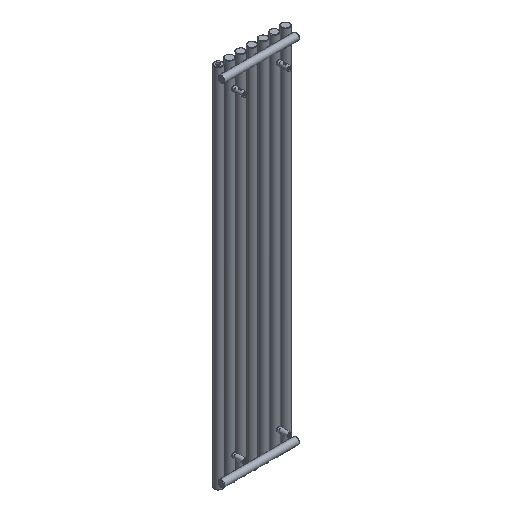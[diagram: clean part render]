
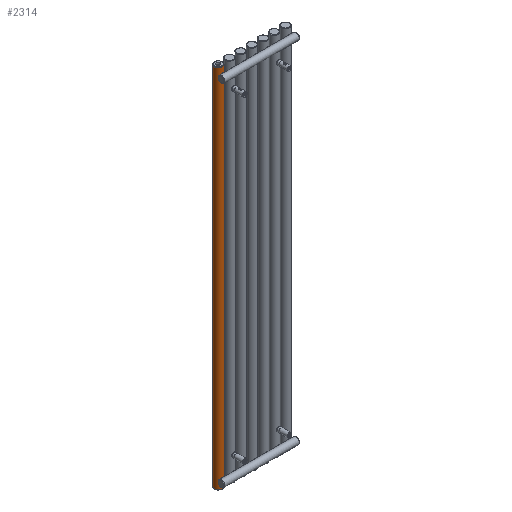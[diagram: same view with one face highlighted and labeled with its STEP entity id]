
A CAD part, isometric view. The second image highlights one B-rep face of the part: STEP entity #2314.
In plain terms, the highlighted cylindrical face has radius 20 mm (diameter 40 mm), a full revolution.
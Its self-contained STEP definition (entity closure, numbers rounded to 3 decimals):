
#174=FACE_BOUND('',#562,.T.);
#175=FACE_BOUND('',#563,.T.);
#215=LINE('',#3919,#292);
#292=VECTOR('',#2862,20.);
#369=CYLINDRICAL_SURFACE('',#2514,20.);
#404=FACE_OUTER_BOUND('',#561,.T.);
#561=EDGE_LOOP('',(#1607,#1608,#1609,#1610,#1611));
#562=EDGE_LOOP('',(#1612));
#563=EDGE_LOOP('',(#1613));
#750=B_SPLINE_CURVE_WITH_KNOTS('',3,(#3761,#3762,#3763,#3764,#3765,#3766,
#3767,#3768,#3769,#3770,#3771,#3772,#3773,#3774,#3775,#3776,#3777,#3778,
#3779,#3780),.UNSPECIFIED.,.T.,.F.,(4,1,1,1,1,1,1,1,1,1,1,1,1,1,1,1,1,4),
(-5.132,-4.765,-4.399,-3.91,
-3.788,-3.666,-3.421,-3.177,
-2.933,-2.444,-2.199,-1.955,
-1.711,-1.466,-1.1,-0.733,
-0.367,0.),.UNSPECIFIED.);
#757=B_SPLINE_CURVE_WITH_KNOTS('',3,(#3923,#3924,#3925,#3926,#3927,#3928,
#3929,#3930,#3931,#3932,#3933,#3934,#3935,#3936,#3937,#3938,#3939,#3940,
#3941,#3942,#3943,#3944,#3945,#3946,#3947,#3948,#3949,#3950,#3951,#3952,
#3953,#3954,#3955,#3956,#3957,#3958,#3959,#3960,#3961,#3962,#3963,#3964,
#3965,#3966,#3967,#3968,#3969,#3970,#3971,#3972,#3973,#3974,#3975,#3976,
#3977,#3978,#3979,#3980,#3981,#3982,#3983,#3984,#3985,#3986,#3987,#3988,
#3989,#3990,#3991,#3992),.UNSPECIFIED.,.T.,.F.,(4,3,3,3,3,3,3,3,3,3,3,3,
3,3,3,3,3,3,3,3,3,3,3,4),(-5.132,-4.765,-4.582,
-4.399,-4.338,-4.277,-4.154,
-3.91,-3.788,-3.666,-3.421,
-3.177,-2.933,-2.444,-2.199,
-2.077,-1.955,-1.711,-1.466,
-1.283,-1.1,-0.733,-0.367,
0.),.UNSPECIFIED.);
#817=CIRCLE('',#2515,20.);
#818=CIRCLE('',#2516,20.);
#819=CIRCLE('',#2517,20.);
#999=VERTEX_POINT('',#3738);
#1009=VERTEX_POINT('',#3915);
#1010=VERTEX_POINT('',#3916);
#1011=VERTEX_POINT('',#3918);
#1012=VERTEX_POINT('',#3922);
#1241=EDGE_CURVE('',#999,#999,#750,.T.);
#1251=EDGE_CURVE('',#1009,#1010,#817,.T.);
#1252=EDGE_CURVE('',#1009,#1011,#215,.T.);
#1253=EDGE_CURVE('',#1011,#1011,#818,.T.);
#1254=EDGE_CURVE('',#1010,#1009,#819,.T.);
#1255=EDGE_CURVE('',#1012,#1012,#757,.T.);
#1607=ORIENTED_EDGE('',*,*,#1251,.F.);
#1608=ORIENTED_EDGE('',*,*,#1252,.T.);
#1609=ORIENTED_EDGE('',*,*,#1253,.F.);
#1610=ORIENTED_EDGE('',*,*,#1252,.F.);
#1611=ORIENTED_EDGE('',*,*,#1254,.F.);
#1612=ORIENTED_EDGE('',*,*,#1255,.F.);
#1613=ORIENTED_EDGE('',*,*,#1241,.F.);
#2314=ADVANCED_FACE('',(#404,#174,#175),#369,.T.);
#2514=AXIS2_PLACEMENT_3D('',#3914,#2858,#2859);
#2515=AXIS2_PLACEMENT_3D('',#3917,#2860,#2861);
#2516=AXIS2_PLACEMENT_3D('',#3920,#2863,#2864);
#2517=AXIS2_PLACEMENT_3D('',#3921,#2865,#2866);
#2858=DIRECTION('center_axis',(0.,0.,1.));
#2859=DIRECTION('ref_axis',(-1.,0.,0.));
#2860=DIRECTION('center_axis',(0.,0.,1.));
#2861=DIRECTION('ref_axis',(-1.,0.,0.));
#2862=DIRECTION('',(0.,0.,-1.));
#2863=DIRECTION('center_axis',(0.,0.,-1.));
#2864=DIRECTION('ref_axis',(-1.,0.,0.));
#2865=DIRECTION('center_axis',(0.,0.,1.));
#2866=DIRECTION('ref_axis',(-1.,0.,0.));
#3738=CARTESIAN_POINT('',(-330.,-20.,50.1));
#3761=CARTESIAN_POINT('Ctrl Pts',(-330.,-20.,50.1));
#3762=CARTESIAN_POINT('Ctrl Pts',(-331.611,-20.,50.1));
#3763=CARTESIAN_POINT('Ctrl Pts',(-334.831,-19.609,49.581));
#3764=CARTESIAN_POINT('Ctrl Pts',(-339.316,-17.862,46.748));
#3765=CARTESIAN_POINT('Ctrl Pts',(-341.001,-16.692,42.52));
#3766=CARTESIAN_POINT('Ctrl Pts',(-340.992,-16.71,39.163));
#3767=CARTESIAN_POINT('Ctrl Pts',(-340.668,-16.917,36.969));
#3768=CARTESIAN_POINT('Ctrl Pts',(-339.648,-17.555,34.43));
#3769=CARTESIAN_POINT('Ctrl Pts',(-337.535,-18.589,32.082));
#3770=CARTESIAN_POINT('Ctrl Pts',(-333.836,-19.82,30.087));
#3771=CARTESIAN_POINT('Ctrl Pts',(-329.419,-20.202,29.641));
#3772=CARTESIAN_POINT('Ctrl Pts',(-325.239,-19.503,30.58));
#3773=CARTESIAN_POINT('Ctrl Pts',(-322.466,-18.591,32.084));
#3774=CARTESIAN_POINT('Ctrl Pts',(-320.351,-17.553,34.428));
#3775=CARTESIAN_POINT('Ctrl Pts',(-318.927,-16.66,37.981));
#3776=CARTESIAN_POINT('Ctrl Pts',(-318.921,-16.659,42.598));
#3777=CARTESIAN_POINT('Ctrl Pts',(-321.137,-18.052,47.027));
#3778=CARTESIAN_POINT('Ctrl Pts',(-325.165,-19.6,49.585));
#3779=CARTESIAN_POINT('Ctrl Pts',(-328.389,-20.,50.1));
#3780=CARTESIAN_POINT('Ctrl Pts',(-330.,-20.,50.1));
#3914=CARTESIAN_POINT('Origin',(-330.,0.,0.));
#3915=CARTESIAN_POINT('',(-310.,0.,1798.));
#3916=CARTESIAN_POINT('',(-350.,0.,1798.));
#3917=CARTESIAN_POINT('Origin',(-330.,0.,1798.));
#3918=CARTESIAN_POINT('',(-310.,0.,2.));
#3919=CARTESIAN_POINT('',(-310.,0.,0.));
#3920=CARTESIAN_POINT('Origin',(-330.,0.,2.));
#3921=CARTESIAN_POINT('Origin',(-330.,0.,1798.));
#3922=CARTESIAN_POINT('',(-330.,-20.,1770.1));
#3923=CARTESIAN_POINT('Ctrl Pts',(-330.,-20.,1770.1));
#3924=CARTESIAN_POINT('Ctrl Pts',(-331.611,-20.,1770.1));
#3925=CARTESIAN_POINT('Ctrl Pts',(-333.224,-19.796,1769.84));
#3926=CARTESIAN_POINT('Ctrl Pts',(-334.701,-19.44,1769.287));
#3927=CARTESIAN_POINT('Ctrl Pts',(-335.439,-19.262,1769.01));
#3928=CARTESIAN_POINT('Ctrl Pts',(-336.144,-19.045,1768.66));
#3929=CARTESIAN_POINT('Ctrl Pts',(-336.794,-18.811,1768.231));
#3930=CARTESIAN_POINT('Ctrl Pts',(-337.443,-18.576,1767.803));
#3931=CARTESIAN_POINT('Ctrl Pts',(-338.038,-18.323,1767.295));
#3932=CARTESIAN_POINT('Ctrl Pts',(-338.559,-18.076,1766.713));
#3933=CARTESIAN_POINT('Ctrl Pts',(-338.733,-17.994,1766.519));
#3934=CARTESIAN_POINT('Ctrl Pts',(-338.899,-17.912,1766.317));
#3935=CARTESIAN_POINT('Ctrl Pts',(-339.056,-17.832,1766.107));
#3936=CARTESIAN_POINT('Ctrl Pts',(-339.213,-17.753,1765.897));
#3937=CARTESIAN_POINT('Ctrl Pts',(-339.361,-17.675,1765.68));
#3938=CARTESIAN_POINT('Ctrl Pts',(-339.5,-17.6,1765.455));
#3939=CARTESIAN_POINT('Ctrl Pts',(-339.778,-17.45,1765.005));
#3940=CARTESIAN_POINT('Ctrl Pts',(-340.019,-17.311,1764.528));
#3941=CARTESIAN_POINT('Ctrl Pts',(-340.221,-17.191,1764.028));
#3942=CARTESIAN_POINT('Ctrl Pts',(-340.624,-16.951,1763.028));
#3943=CARTESIAN_POINT('Ctrl Pts',(-340.87,-16.788,1761.94));
#3944=CARTESIAN_POINT('Ctrl Pts',(-340.952,-16.734,1760.833));
#3945=CARTESIAN_POINT('Ctrl Pts',(-340.993,-16.707,1760.28));
#3946=CARTESIAN_POINT('Ctrl Pts',(-340.992,-16.708,1759.722));
#3947=CARTESIAN_POINT('Ctrl Pts',(-340.952,-16.735,1759.168));
#3948=CARTESIAN_POINT('Ctrl Pts',(-340.911,-16.761,1758.615));
#3949=CARTESIAN_POINT('Ctrl Pts',(-340.829,-16.814,1758.066));
#3950=CARTESIAN_POINT('Ctrl Pts',(-340.707,-16.892,1757.531));
#3951=CARTESIAN_POINT('Ctrl Pts',(-340.463,-17.047,1756.46));
#3952=CARTESIAN_POINT('Ctrl Pts',(-340.056,-17.3,1755.446));
#3953=CARTESIAN_POINT('Ctrl Pts',(-339.5,-17.6,1754.547));
#3954=CARTESIAN_POINT('Ctrl Pts',(-338.944,-17.899,1753.648));
#3955=CARTESIAN_POINT('Ctrl Pts',(-338.239,-18.245,1752.865));
#3956=CARTESIAN_POINT('Ctrl Pts',(-337.425,-18.571,1752.224));
#3957=CARTESIAN_POINT('Ctrl Pts',(-336.61,-18.897,1751.583));
#3958=CARTESIAN_POINT('Ctrl Pts',(-335.685,-19.205,1751.085));
#3959=CARTESIAN_POINT('Ctrl Pts',(-334.701,-19.442,1750.715));
#3960=CARTESIAN_POINT('Ctrl Pts',(-332.731,-19.916,1749.976));
#3961=CARTESIAN_POINT('Ctrl Pts',(-330.523,-20.108,1749.753));
#3962=CARTESIAN_POINT('Ctrl Pts',(-328.393,-19.938,1749.992));
#3963=CARTESIAN_POINT('Ctrl Pts',(-327.329,-19.853,1750.111));
#3964=CARTESIAN_POINT('Ctrl Pts',(-326.284,-19.677,1750.345));
#3965=CARTESIAN_POINT('Ctrl Pts',(-325.299,-19.438,1750.714));
#3966=CARTESIAN_POINT('Ctrl Pts',(-324.807,-19.319,1750.898));
#3967=CARTESIAN_POINT('Ctrl Pts',(-324.33,-19.184,1751.115));
#3968=CARTESIAN_POINT('Ctrl Pts',(-323.874,-19.038,1751.367));
#3969=CARTESIAN_POINT('Ctrl Pts',(-323.418,-18.891,1751.618));
#3970=CARTESIAN_POINT('Ctrl Pts',(-322.983,-18.733,1751.904));
#3971=CARTESIAN_POINT('Ctrl Pts',(-322.576,-18.57,1752.224));
#3972=CARTESIAN_POINT('Ctrl Pts',(-321.761,-18.244,1752.865));
#3973=CARTESIAN_POINT('Ctrl Pts',(-321.056,-17.899,1753.647));
#3974=CARTESIAN_POINT('Ctrl Pts',(-320.5,-17.599,1754.545));
#3975=CARTESIAN_POINT('Ctrl Pts',(-319.943,-17.299,1755.444));
#3976=CARTESIAN_POINT('Ctrl Pts',(-319.536,-17.046,1756.459));
#3977=CARTESIAN_POINT('Ctrl Pts',(-319.292,-16.891,1757.53));
#3978=CARTESIAN_POINT('Ctrl Pts',(-319.109,-16.775,1758.332));
#3979=CARTESIAN_POINT('Ctrl Pts',(-319.018,-16.714,1759.166));
#3980=CARTESIAN_POINT('Ctrl Pts',(-319.017,-16.714,1760.));
#3981=CARTESIAN_POINT('Ctrl Pts',(-319.017,-16.714,1760.834));
#3982=CARTESIAN_POINT('Ctrl Pts',(-319.108,-16.774,1761.668));
#3983=CARTESIAN_POINT('Ctrl Pts',(-319.292,-16.891,1762.47));
#3984=CARTESIAN_POINT('Ctrl Pts',(-319.66,-17.125,1764.075));
#3985=CARTESIAN_POINT('Ctrl Pts',(-320.399,-17.587,1765.551));
#3986=CARTESIAN_POINT('Ctrl Pts',(-321.44,-18.076,1766.715));
#3987=CARTESIAN_POINT('Ctrl Pts',(-322.481,-18.566,1767.879));
#3988=CARTESIAN_POINT('Ctrl Pts',(-323.823,-19.084,1768.732));
#3989=CARTESIAN_POINT('Ctrl Pts',(-325.3,-19.442,1769.287));
#3990=CARTESIAN_POINT('Ctrl Pts',(-326.777,-19.801,1769.842));
#3991=CARTESIAN_POINT('Ctrl Pts',(-328.389,-20.,1770.1));
#3992=CARTESIAN_POINT('Ctrl Pts',(-330.,-20.,1770.1));
